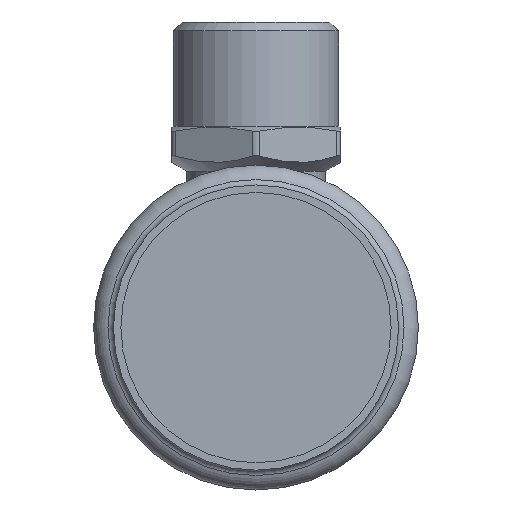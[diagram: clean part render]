
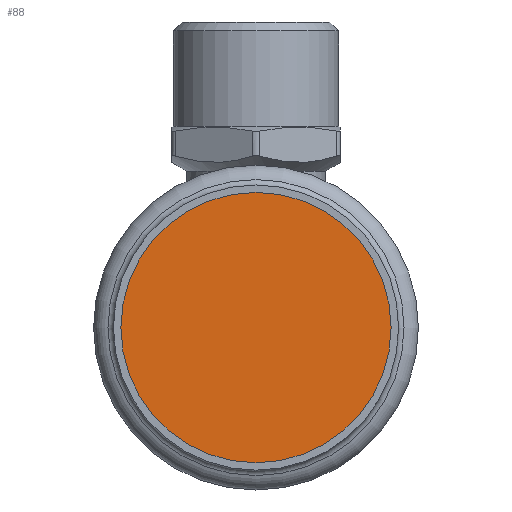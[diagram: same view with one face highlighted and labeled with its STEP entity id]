
A CAD part, front view. The second image highlights one B-rep face of the part: STEP entity #88.
In plain terms, the highlighted planar face has unit normal (0, -1, 0).
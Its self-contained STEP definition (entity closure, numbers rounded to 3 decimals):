
#88=ADVANCED_FACE('',(#381),#383,.T.);
#381=FACE_BOUND('',#382,.T.);
#382=EDGE_LOOP('',(#519));
#383=PLANE('',#384);
#384=AXIS2_PLACEMENT_3D('',#385,#386,#387);
#385=CARTESIAN_POINT('',(0.,-67.792,0.));
#386=DIRECTION('',(0.,-1.,0.));
#387=DIRECTION('',(0.,0.,-1.));
#519=ORIENTED_EDGE('',*,*,#582,.T.);
#582=EDGE_CURVE('',#694,#694,#695,.F.);
#694=VERTEX_POINT('',#1983);
#695=CIRCLE('',#1984,27.2);
#1983=CARTESIAN_POINT('',(0.,-67.792,27.2));
#1984=AXIS2_PLACEMENT_3D('',#1985,#1986,#1987);
#1985=CARTESIAN_POINT('',(0.,-67.792,0.));
#1986=DIRECTION('',(0.,1.,0.));
#1987=DIRECTION('',(0.,0.,1.));
